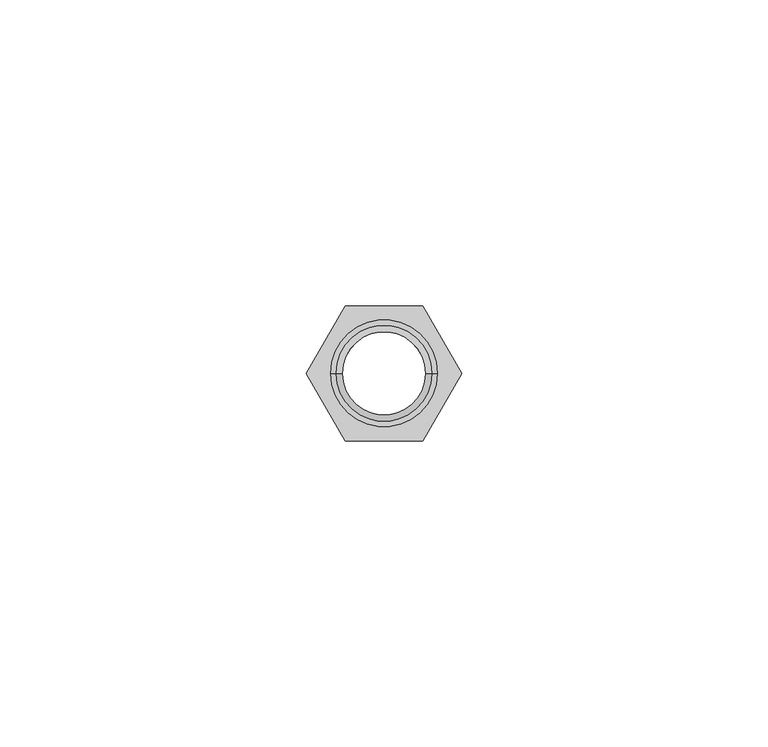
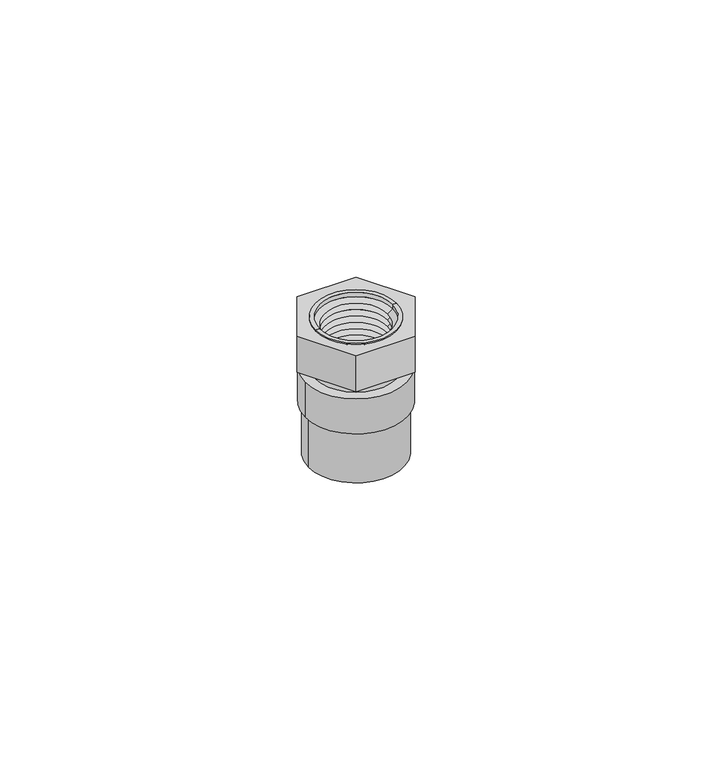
"""IFC4 building model written with IfcOpenShell, lengths in millimetres: valve geometry, Adaptador Hembra con Ins Metalico_Lubrizol_CPVC_FlowGuard_MX 13mm : Adaptador Hembra con Ins Metalico_Lubrizol_CPVC_FlowGuard_MX 13mm."""

from ifc_helpers import new_model, si_unit, point, frame, origin, origin_with_axes, origin_2d, place, context, project, spatial, polyline, circle_curve, trimmed, segment, composite_curve, outline, extrude, source, transform, mapped, element, save
from ifc_brep_helpers import plane_surface, cylinder_surface, revolved_surface, advanced_brep


def valve_e3f3b538(model_context):
    return source(origin(), model_context, "Body", "SolidModel", [
        advanced_brep(
        [(8.7401743, 0.0, 30.8), (-8.7401743, 0.0, 30.8), (-7.8893701, 0.0, 30.8), (7.8893701, 0.0, 30.8), (8.7401743, 0.0, 19.6498777), (-8.7401743, 0.0, 19.6498777), (7.8598817, 0.0, 19.6498777), (-7.8598817, 0.0, 19.6498777), (6.8256574, 0.0, 20.3740493), (-6.8256574, 0.0, 20.3740493), (7.8598817, 0.0, 21.0982209), (-7.8598817, 0.0, 21.0982209), (6.8256574, 0.0, 21.8223925), (-6.8256574, 0.0, 21.8223925), (7.8598817, 0.0, 22.5465641), (-7.8598817, 0.0, 22.5465641), (6.8256574, 0.0, 23.2707358), (-6.8256574, 0.0, 23.2707358), (7.8598817, 0.0, 23.9949074), (-7.8598817, 0.0, 23.9949074), (6.8256574, 0.0, 24.719079), (-6.8256574, 0.0, 24.719079), (7.8598817, 0.0, 25.4432506), (-7.8598817, 0.0, 25.4432506), (6.8256574, 0.0, 26.1674223), (-6.8256574, 0.0, 26.1674223), (7.8598817, 0.0, 26.8915939), (-7.8598817, 0.0, 26.8915939), (6.8256574, 0.0, 27.6157655), (-6.8256574, 0.0, 27.6157655), (7.8598817, 0.0, 28.3399371), (-7.8598817, 0.0, 28.3399371), (6.8256574, 0.0, 29.0641088), (-6.8256574, 0.0, 29.0641088), (7.8893701, 0.0, 29.8089284), (-7.8893701, 0.0, 29.8089284)],
        [
            (0, 1, circle_curve(frame((0.0, 0.0, 30.8), z_axis=(0.0, 0.0, 1.0), x_axis=(-1.0, 0.0, 0.0)), 8.7401743)),
            (1, 2),
            (2, 3, circle_curve(frame((0.0, 0.0, 30.8), z_axis=(0.0, 0.0, -1.0), x_axis=(-1.0, 0.0, 0.0)), 7.8893701)),
            (3, 0),
            (1, 0, circle_curve(frame((0.0, 0.0, 30.8), z_axis=(0.0, 0.0, 1.0), x_axis=(-1.0, 0.0, 0.0)), 8.7401743)),
            (3, 2, circle_curve(frame((0.0, 0.0, 30.8), z_axis=(0.0, 0.0, -1.0), x_axis=(-1.0, 0.0, 0.0)), 7.8893701)),
            (4, 5, circle_curve(frame((0.0, 0.0, 19.6498777), z_axis=(0.0, 0.0, 1.0), x_axis=(-1.0, 0.0, 0.0)), 8.7401743)),
            (5, 1),
            (0, 4),
            (5, 4, circle_curve(frame((0.0, 0.0, 19.6498777), z_axis=(0.0, 0.0, 1.0), x_axis=(-1.0, 0.0, 0.0)), 8.7401743)),
            (6, 7, circle_curve(frame((0.0, 0.0, 19.6498777), z_axis=(0.0, 0.0, 1.0), x_axis=(-1.0, 0.0, 0.0)), 7.8598817)),
            (7, 5),
            (4, 6),
            (7, 6, circle_curve(frame((0.0, 0.0, 19.6498777), z_axis=(0.0, 0.0, 1.0), x_axis=(-1.0, 0.0, 0.0)), 7.8598817)),
            (8, 9, circle_curve(frame((0.0, 0.0, 20.3740493), z_axis=(0.0, 0.0, 1.0), x_axis=(-1.0, 0.0, 0.0)), 6.8256574)),
            (9, 7),
            (6, 8),
            (9, 8, circle_curve(frame((0.0, 0.0, 20.3740493), z_axis=(0.0, 0.0, 1.0), x_axis=(-1.0, 0.0, 0.0)), 6.8256574)),
            (10, 11, circle_curve(frame((0.0, 0.0, 21.0982209), z_axis=(0.0, 0.0, 1.0), x_axis=(-1.0, 0.0, 0.0)), 7.8598817)),
            (11, 9),
            (8, 10),
            (11, 10, circle_curve(frame((0.0, 0.0, 21.0982209), z_axis=(0.0, 0.0, 1.0), x_axis=(-1.0, 0.0, 0.0)), 7.8598817)),
            (12, 13, circle_curve(frame((0.0, 0.0, 21.8223925), z_axis=(0.0, 0.0, 1.0), x_axis=(-1.0, 0.0, 0.0)), 6.8256574)),
            (13, 11),
            (10, 12),
            (13, 12, circle_curve(frame((0.0, 0.0, 21.8223925), z_axis=(0.0, 0.0, 1.0), x_axis=(-1.0, 0.0, 0.0)), 6.8256574)),
            (14, 15, circle_curve(frame((0.0, 0.0, 22.5465641), z_axis=(0.0, 0.0, 1.0), x_axis=(-1.0, 0.0, 0.0)), 7.8598817)),
            (15, 13),
            (12, 14),
            (15, 14, circle_curve(frame((0.0, 0.0, 22.5465641), z_axis=(0.0, 0.0, 1.0), x_axis=(-1.0, 0.0, 0.0)), 7.8598817)),
            (16, 17, circle_curve(frame((0.0, 0.0, 23.2707358), z_axis=(0.0, 0.0, 1.0), x_axis=(-1.0, 0.0, 0.0)), 6.8256574)),
            (17, 15),
            (14, 16),
            (17, 16, circle_curve(frame((0.0, 0.0, 23.2707358), z_axis=(0.0, 0.0, 1.0), x_axis=(-1.0, 0.0, 0.0)), 6.8256574)),
            (18, 19, circle_curve(frame((0.0, 0.0, 23.9949074), z_axis=(0.0, 0.0, 1.0), x_axis=(-1.0, 0.0, 0.0)), 7.8598817)),
            (19, 17),
            (16, 18),
            (19, 18, circle_curve(frame((0.0, 0.0, 23.9949074), z_axis=(0.0, 0.0, 1.0), x_axis=(-1.0, 0.0, 0.0)), 7.8598817)),
            (20, 21, circle_curve(frame((0.0, 0.0, 24.719079), z_axis=(0.0, 0.0, 1.0), x_axis=(-1.0, 0.0, 0.0)), 6.8256574)),
            (21, 19),
            (18, 20),
            (21, 20, circle_curve(frame((0.0, 0.0, 24.719079), z_axis=(0.0, 0.0, 1.0), x_axis=(-1.0, 0.0, 0.0)), 6.8256574)),
            (22, 23, circle_curve(frame((0.0, 0.0, 25.4432506), z_axis=(0.0, 0.0, 1.0), x_axis=(-1.0, 0.0, 0.0)), 7.8598817)),
            (23, 21),
            (20, 22),
            (23, 22, circle_curve(frame((0.0, 0.0, 25.4432506), z_axis=(0.0, 0.0, 1.0), x_axis=(-1.0, 0.0, 0.0)), 7.8598817)),
            (24, 25, circle_curve(frame((0.0, 0.0, 26.1674223), z_axis=(0.0, 0.0, 1.0), x_axis=(-1.0, 0.0, 0.0)), 6.8256574)),
            (25, 23),
            (22, 24),
            (25, 24, circle_curve(frame((0.0, 0.0, 26.1674223), z_axis=(0.0, 0.0, 1.0), x_axis=(-1.0, 0.0, 0.0)), 6.8256574)),
            (26, 27, circle_curve(frame((0.0, 0.0, 26.8915939), z_axis=(0.0, 0.0, 1.0), x_axis=(-1.0, 0.0, 0.0)), 7.8598817)),
            (27, 25),
            (24, 26),
            (27, 26, circle_curve(frame((0.0, 0.0, 26.8915939), z_axis=(0.0, 0.0, 1.0), x_axis=(-1.0, 0.0, 0.0)), 7.8598817)),
            (28, 29, circle_curve(frame((0.0, 0.0, 27.6157655), z_axis=(0.0, 0.0, 1.0), x_axis=(-1.0, 0.0, 0.0)), 6.8256574)),
            (29, 27),
            (26, 28),
            (29, 28, circle_curve(frame((0.0, 0.0, 27.6157655), z_axis=(0.0, 0.0, 1.0), x_axis=(-1.0, 0.0, 0.0)), 6.8256574)),
            (30, 31, circle_curve(frame((0.0, 0.0, 28.3399371), z_axis=(0.0, 0.0, 1.0), x_axis=(-1.0, 0.0, 0.0)), 7.8598817)),
            (31, 29),
            (28, 30),
            (31, 30, circle_curve(frame((0.0, 0.0, 28.3399371), z_axis=(0.0, 0.0, 1.0), x_axis=(-1.0, 0.0, 0.0)), 7.8598817)),
            (32, 33, circle_curve(frame((0.0, 0.0, 29.0641088), z_axis=(0.0, 0.0, 1.0), x_axis=(-1.0, 0.0, 0.0)), 6.8256574)),
            (33, 31),
            (30, 32),
            (33, 32, circle_curve(frame((0.0, 0.0, 29.0641088), z_axis=(0.0, 0.0, 1.0), x_axis=(-1.0, 0.0, 0.0)), 6.8256574)),
            (34, 35, circle_curve(frame((0.0, 0.0, 29.8089284), z_axis=(0.0, 0.0, 1.0), x_axis=(-1.0, 0.0, 0.0)), 7.8893701)),
            (35, 33),
            (32, 34),
            (35, 34, circle_curve(frame((0.0, 0.0, 29.8089284), z_axis=(0.0, 0.0, 1.0), x_axis=(-1.0, 0.0, 0.0)), 7.8893701)),
            (2, 35),
            (34, 3),
        ],
        [
            plane_surface(frame((0.0, 0.0, 30.8), z_axis=(0.0, 0.0, 1.0), x_axis=(-1.0, 0.0, 0.0))),
            cylinder_surface(frame((0.0, 0.0, 32.7589883), z_axis=(0.0, 0.0, -1.0), x_axis=(-1.0, 0.0, 0.0)), 8.7401743),
            plane_surface(frame((0.0, 0.0, 19.6498777), z_axis=(0.0, 0.0, -1.0), x_axis=(-1.0, 0.0, 0.0))),
            revolved_surface(polyline([(-7.8598817, 0.0, 19.6498777), (-6.8256574, 0.0, 20.3740493)]), (0.0, 0.0, 32.7589883), (0.0, 0.0, -1.0)),
            revolved_surface(polyline([(-6.8256574, 0.0, 20.3740493), (-7.8598817, 0.0, 21.0982209)]), (0.0, 0.0, 32.7589883), (0.0, 0.0, -1.0)),
            revolved_surface(polyline([(-7.8598817, 0.0, 21.0982209), (-6.8256574, 0.0, 21.8223925)]), (0.0, 0.0, 32.7589883), (0.0, 0.0, -1.0)),
            revolved_surface(polyline([(-6.8256574, 0.0, 21.8223925), (-7.8598817, 0.0, 22.5465641)]), (0.0, 0.0, 32.7589883), (0.0, 0.0, -1.0)),
            revolved_surface(polyline([(-7.8598817, 0.0, 22.5465641), (-6.8256574, 0.0, 23.2707358)]), (0.0, 0.0, 32.7589883), (0.0, 0.0, -1.0)),
            revolved_surface(polyline([(-6.8256574, 0.0, 23.2707358), (-7.8598817, 0.0, 23.9949074)]), (0.0, 0.0, 32.7589883), (0.0, 0.0, -1.0)),
            revolved_surface(polyline([(-7.8598817, 0.0, 23.9949074), (-6.8256574, 0.0, 24.719079)]), (0.0, 0.0, 32.7589883), (0.0, 0.0, -1.0)),
            revolved_surface(polyline([(-6.8256574, 0.0, 24.719079), (-7.8598817, 0.0, 25.4432506)]), (0.0, 0.0, 32.7589883), (0.0, 0.0, -1.0)),
            revolved_surface(polyline([(-7.8598817, 0.0, 25.4432506), (-6.8256574, 0.0, 26.1674223)]), (0.0, 0.0, 32.7589883), (0.0, 0.0, -1.0)),
            revolved_surface(polyline([(-6.8256574, 0.0, 26.1674223), (-7.8598817, 0.0, 26.8915939)]), (0.0, 0.0, 32.7589883), (0.0, 0.0, -1.0)),
            revolved_surface(polyline([(-7.8598817, 0.0, 26.8915939), (-6.8256574, 0.0, 27.6157655)]), (0.0, 0.0, 32.7589883), (0.0, 0.0, -1.0)),
            revolved_surface(polyline([(-6.8256574, 0.0, 27.6157655), (-7.8598817, 0.0, 28.3399371)]), (0.0, 0.0, 32.7589883), (0.0, 0.0, -1.0)),
            revolved_surface(polyline([(-7.8598817, 0.0, 28.3399371), (-6.8256574, 0.0, 29.0641088)]), (0.0, 0.0, 32.7589883), (0.0, 0.0, -1.0)),
            revolved_surface(polyline([(-6.8256574, 0.0, 29.0641088), (-7.8893701, 0.0, 29.8089284)]), (0.0, 0.0, 32.7589883), (0.0, 0.0, -1.0)),
            revolved_surface(polyline([(-7.8893701, 0.0, 29.8089284), (-7.8893701, 0.0, 30.8)]), (0.0, 0.0, 32.7589883), (0.0, 0.0, -1.0)),
        ],
        [
            (0, [[1, 2, 3, 4]]),
            (0, [[5, -4, 6, -2]]),
            (1, [[7, 8, -1, 9]]),
            (1, [[10, -9, -5, -8]]),
            (2, [[11, 12, -7, 13]]),
            (2, [[14, -13, -10, -12]]),
            (3, [[15, 16, -11, 17]]),
            (3, [[18, -17, -14, -16]]),
            (4, [[19, 20, -15, 21]]),
            (4, [[22, -21, -18, -20]]),
            (5, [[23, 24, -19, 25]]),
            (5, [[26, -25, -22, -24]]),
            (6, [[27, 28, -23, 29]]),
            (6, [[30, -29, -26, -28]]),
            (7, [[31, 32, -27, 33]]),
            (7, [[34, -33, -30, -32]]),
            (8, [[35, 36, -31, 37]]),
            (8, [[38, -37, -34, -36]]),
            (9, [[39, 40, -35, 41]]),
            (9, [[42, -41, -38, -40]]),
            (10, [[43, 44, -39, 45]]),
            (10, [[46, -45, -42, -44]]),
            (11, [[47, 48, -43, 49]]),
            (11, [[50, -49, -46, -48]]),
            (12, [[51, 52, -47, 53]]),
            (12, [[54, -53, -50, -52]]),
            (13, [[55, 56, -51, 57]]),
            (13, [[58, -57, -54, -56]]),
            (14, [[59, 60, -55, 61]]),
            (14, [[62, -61, -58, -60]]),
            (15, [[63, 64, -59, 65]]),
            (15, [[66, -65, -62, -64]]),
            (16, [[67, 68, -63, 69]]),
            (16, [[70, -69, -66, -68]]),
            (17, [[-3, 71, -67, 72]]),
            (17, [[-6, -72, -70, -71]]),
        ],
    ),
        extrude(outline(composite_curve([segment(trimmed(circle_curve(origin_2d(), 10.25), [point((-10.25, 0.0))], [point((10.25, 0.0))], False, "CARTESIAN"), True, "CONTINUOUS"), segment(trimmed(circle_curve(origin_2d(), 10.25), [point((10.25, 0.0))], [point((-10.25, 0.0))], False, "CARTESIAN"), True, "CONTINUOUS")], self_intersect=False), holes=[composite_curve([segment(trimmed(circle_curve(origin_2d(), 7.95), [point((-7.95, 0.0))], [point((7.95, 0.0))], True, "CARTESIAN"), True, "CONTINUOUS"), segment(trimmed(circle_curve(origin_2d(), 7.95), [point((7.95, 0.0))], [point((-7.95, 0.0))], True, "CARTESIAN"), True, "CONTINUOUS")], self_intersect=False)]), origin_with_axes(), (0.0, 0.0, 1.0), 11.6498777),
        extrude(outline(polyline([(-6.3719143, -11.0364794), (-12.7438287, 0.0), (-6.3719143, 11.0364794), (6.3719143, 11.0364794), (12.7438287, 0.0), (6.3719143, -11.0364794), (-6.3719143, -11.0364794)]), holes=[composite_curve([segment(trimmed(circle_curve(origin_2d(), 7.95), [point((-7.95, 0.0))], [point((7.95, 0.0))], True, "CARTESIAN"), True, "CONTINUOUS"), segment(trimmed(circle_curve(origin_2d(), 7.95), [point((7.95, 0.0))], [point((-7.95, 0.0))], True, "CARTESIAN"), True, "CONTINUOUS")], self_intersect=False)]), frame((0.0, 0.0, 22.5465641), z_axis=(0.0, 0.0, 1.0), x_axis=(1.0, 0.0, 0.0)), (0.0, 0.0, 1.0), 8.2534359),
        extrude(outline(composite_curve([segment(trimmed(circle_curve(origin_2d(), 10.9321227), [point((-10.9321227, 0.0))], [point((10.9321227, 0.0))], False, "CARTESIAN"), True, "CONTINUOUS"), segment(trimmed(circle_curve(origin_2d(), 10.9321227), [point((10.9321227, 0.0))], [point((-10.9321227, 0.0))], False, "CARTESIAN"), True, "CONTINUOUS")], self_intersect=False), holes=[composite_curve([segment(trimmed(circle_curve(origin_2d(), 7.95), [point((-7.95, 0.0))], [point((7.95, 0.0))], True, "CARTESIAN"), True, "CONTINUOUS"), segment(trimmed(circle_curve(origin_2d(), 7.95), [point((7.95, 0.0))], [point((-7.95, 0.0))], True, "CARTESIAN"), True, "CONTINUOUS")], self_intersect=False)]), frame((0.0, 0.0, 11.6498777), z_axis=(0.0, 0.0, 1.0), x_axis=(1.0, 0.0, 0.0)), (0.0, 0.0, 1.0), 8.0),
    ])


if __name__ == "__main__":
    model = new_model("IFC4")
    model_context = context("Model", 3, world=origin())
    ifc_project = project(units=[si_unit("LENGTHUNIT", "METRE", prefix="MILLI")], contexts=[model_context])
    site = spatial("IfcSite", under=ifc_project)
    building = spatial("IfcBuilding", under=site)
    placement = place(None, origin())
    valve_shape = valve_e3f3b538(model_context)
    element("IfcValve", 1, ObjectType="Adaptador Hembra con Ins Metalico_Lubrizol_CPVC_FlowGuard_MX 13mm : Adaptador Hembra con Ins Metalico_Lubrizol_CPVC_FlowGuard_MX 13mm", at=placement, inside=building, context=model_context, shape_type="MappedRepresentation", body=[
        mapped(valve_shape, transform((0.0, 0.0, 0.0), x_axis=(1.0, 0.0, 0.0), y_axis=(0.0, 1.0, 0.0), z_axis=(0.0, 0.0, 1.0))),
    ])
    save(model, "model.ifc")
